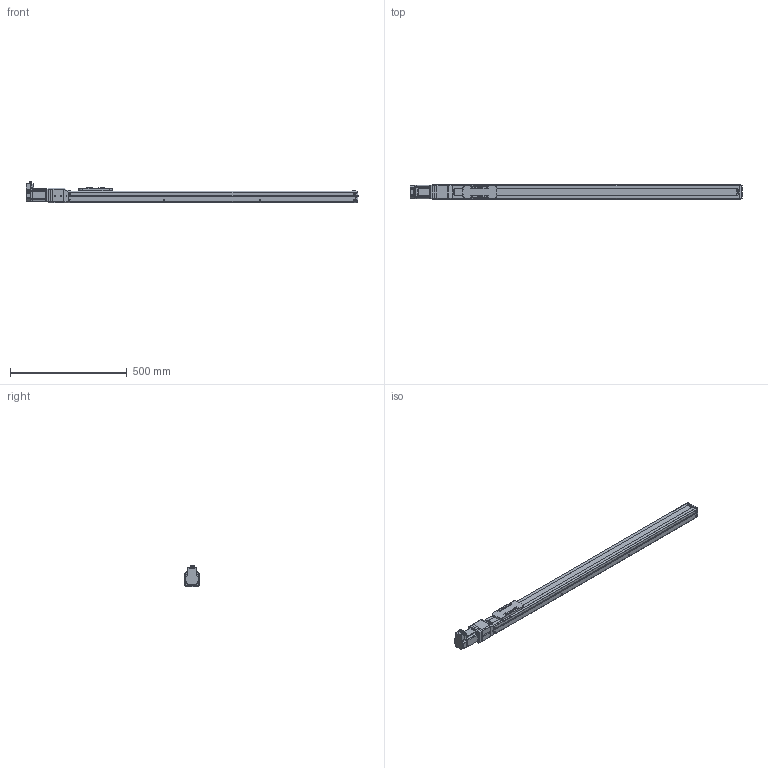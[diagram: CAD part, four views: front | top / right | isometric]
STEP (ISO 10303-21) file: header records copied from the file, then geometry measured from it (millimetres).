
FILE_DESCRIPTION(('FreeCAD Model'),'2;1');
FILE_NAME('Open CASCADE Shape Model','2023-08-02T11:12:58',('Author'),( ''),'Open CASCADE STEP processor 7.5','FreeCAD','Unknown');
FILE_SCHEMA(('AUTOMOTIVE_DESIGN { 1 0 10303 214 1 1 1 1 }'));
Length unit declared in the file: millimetre
Products named in the file (19): RSA1211; 1; 6; 5; 12; 2; 3; 9; 4; 11; 7; 13; 10; 8; Shapes; KSF6-20-1000-0-A0(0); KSF6---(Cover); KSF6-10-0050---(slider); KSF6-20-01000-A0 (01000A0No0)---(body)
Assembly tree (18 placements, depth 3):
  RSA1211
    1
    6
    5
    12
    2
    3
    9
    4
    11
    7
    13
    10
    8
    Shapes
    KSF6-20-1000-0-A0(0)
      KSF6---(Cover)
      KSF6-10-0050---(slider)
      KSF6-20-01000-A0 (01000A0No0)---(body)
Bounding box: 1423 x 66.4 x 93.17 mm (x, y, z)
Volume: 4442408.6 mm3; surface area: 458169.5 mm2
Topology: 17 solids, 17 shells, 1595 faces, 4252 edges, 2792 vertices
Faces by surface type: plane 1143, cylinder 314, cone 75, bspline 32, torus 27, revolution 4
Full cylindrical faces by diameter (mm): 2.113 x8, 2.6 x4, 3 x2, 3.242 x5, 4.134 x4, 4.5 x2, 5 x1, 5.5 x18, 6.5 x4, 9 x1, 9.5 x12, 12 x1, 15.5 x1, 17 x1, 44 x1, 50 x1
Entity records: 112176 total; most frequent: CARTESIAN_POINT 26416, DIRECTION 15953, LINE 10822, VECTOR 10822, ORIENTED_EDGE 8464, PCURVE 8464, DEFINITIONAL_REPRESENTATION 8464, EDGE_CURVE 4232
